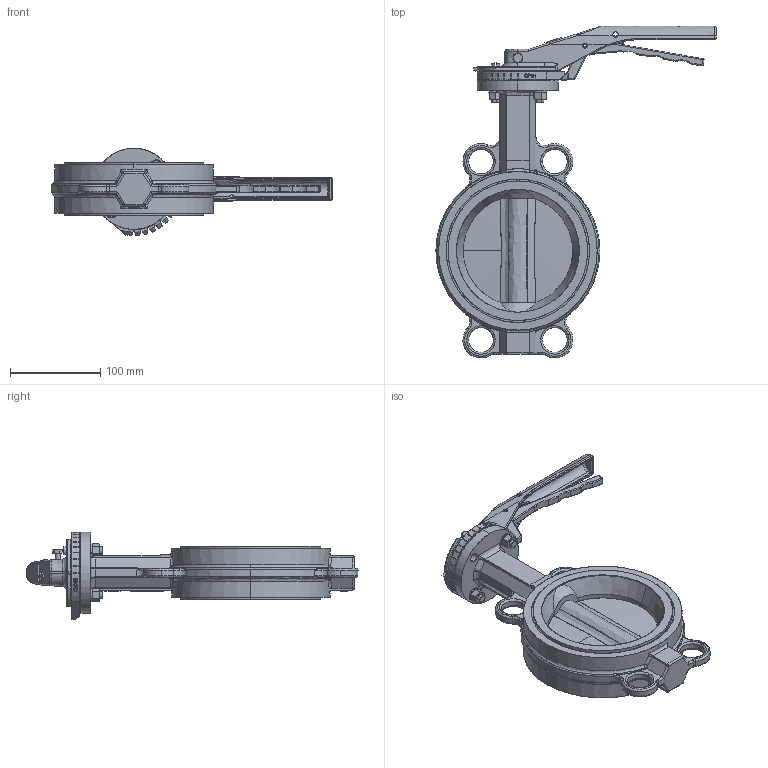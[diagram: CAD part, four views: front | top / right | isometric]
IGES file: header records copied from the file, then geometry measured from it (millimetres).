
Start section: SolidWorks IGES file using analytic representation for surfaces
Global section: file name: H:\BE BIBLIOTHEQUE 3D\Projet_Biblio3D_2016\FSK\VPE\VPE-02\DN125\VPE-02 DN 125.IGS; native system: SolidWorks 2014; preprocessor: SolidWorks 2014; author: c.maitre; date: 160928.165640; units: millimetre
Bounding box: 311 x 368.47 x 96.92 mm (x, y, z)
Surface area: 250825.4 mm2 (no closed solid volume)
Topology: 0 solids, 0 shells, 1476 faces, 18980 edges, 18928 vertices
Faces by surface type: bspline 845, revolution 631
